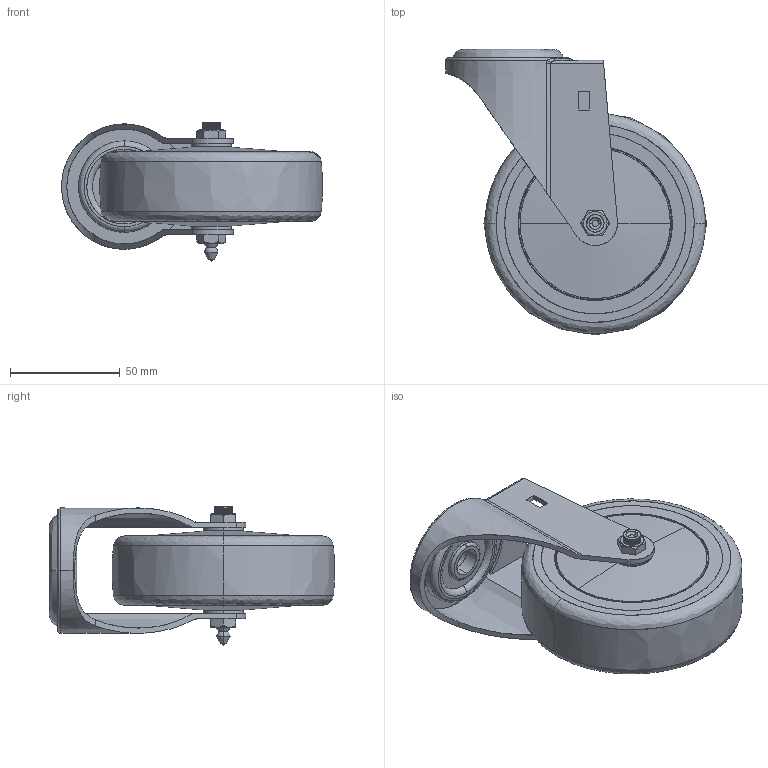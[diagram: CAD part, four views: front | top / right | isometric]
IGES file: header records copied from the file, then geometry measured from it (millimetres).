
Start section: SolidWorks IGES file using analytic representation for surfaces
Global section: file name: \\192.168.10.26\Nimesh\Tyler Manz\Output\2024\2024-09-06\4'' Swivel Caster with ½'' Bolt Hole - Thermoplastic Rubber Tread\SCC-BH20S414-TPRB 3D IGES.IGS; native system: SolidWorks 2016; preprocessor: SolidWorks 2016; author: kathan.gandhi; date: 240911.102122; units: inch
Bounding box: 119 x 130.11 x 62.99 mm (x, y, z)
Surface area: 77686.8 mm2 (no closed solid volume)
Topology: 0 solids, 0 shells, 268 faces, 4863 edges, 4860 vertices
Faces by surface type: bspline 180, revolution 88
